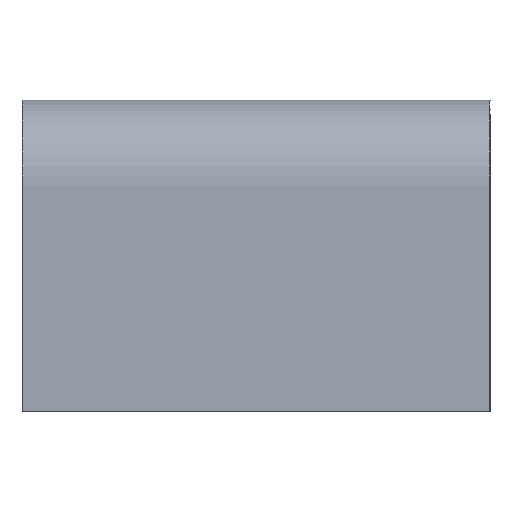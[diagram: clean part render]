
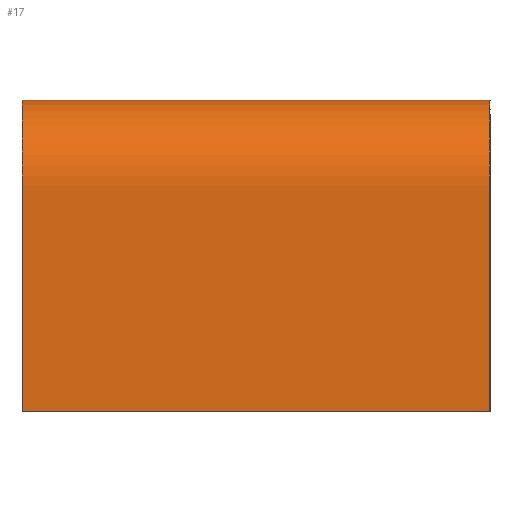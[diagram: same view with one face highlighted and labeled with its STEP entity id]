
A CAD part, left-side view. The second image highlights one B-rep face of the part: STEP entity #17.
In plain terms, the highlighted free-form (B-spline) face has degree [1, 2] with [2, 11] control points.
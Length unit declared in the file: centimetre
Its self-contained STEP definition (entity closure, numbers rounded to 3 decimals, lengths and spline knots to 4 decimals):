
#17=ADVANCED_FACE($,(#30),#154,.T.);
#30=FACE_OUTER_BOUND($,#43,.T.);
#43=EDGE_LOOP($,(#59,#60,#61,#62));
#59=ORIENTED_EDGE($,*,*,#112,.T.);
#60=ORIENTED_EDGE($,*,*,#110,.T.);
#61=ORIENTED_EDGE($,*,*,#115,.F.);
#62=ORIENTED_EDGE($,*,*,#118,.F.);
#110=EDGE_CURVE($,#136,#137,#178,.T.);
#112=EDGE_CURVE($,#138,#136,#167,.T.);
#115=EDGE_CURVE($,#141,#137,#169,.T.);
#118=EDGE_CURVE($,#138,#141,#182,.T.);
#136=VERTEX_POINT($,#412);
#137=VERTEX_POINT($,#413);
#138=VERTEX_POINT($,#414);
#141=VERTEX_POINT($,#417);
#154=(
BOUNDED_SURFACE()
B_SPLINE_SURFACE(1,2,((#365,#366,#367,#368,#369,#370,#371,#372,#373,#374,
#375),(#376,#377,#378,#379,#380,#381,#382,#383,#384,#385,#386)),.UNSPECIFIED.,
.F.,.F.,.F.)
B_SPLINE_SURFACE_WITH_KNOTS((2,2),(3,2,2,2,2,3),(0.,60.),(-383.1717,
-354.3717,-336.7788,-239.1788,-221.5858,
-192.7858),.UNSPECIFIED.)
GEOMETRIC_REPRESENTATION_ITEM()
RATIONAL_B_SPLINE_SURFACE(((1.,1.,1.,0.707,1.,1.,1.,0.707,
1.,1.,1.),(1.,1.,1.,0.707,1.,1.,1.,0.707,1.,1.,1.)))
REPRESENTATION_ITEM($)
SURFACE()
);
#167=(
BOUNDED_CURVE()
B_SPLINE_CURVE(2,(#310,#311,#312,#313,#314,#315,#316,#317,#318,#319,#320),
.UNSPECIFIED.,.F.,.F.)
B_SPLINE_CURVE_WITH_KNOTS((3,2,2,2,2,3),(192.7858,221.5858,
239.1788,336.7788,354.3717,383.1717),.UNSPECIFIED.)
CURVE()
GEOMETRIC_REPRESENTATION_ITEM()
RATIONAL_B_SPLINE_CURVE((1.,1.,1.,0.707,1.,1.,1.,0.707,
1.,1.,1.))
REPRESENTATION_ITEM($)
);
#169=(
BOUNDED_CURVE()
B_SPLINE_CURVE(2,(#334,#335,#336,#337,#338,#339,#340,#341,#342,#343,#344),
.UNSPECIFIED.,.F.,.F.)
B_SPLINE_CURVE_WITH_KNOTS((3,2,2,2,2,3),(192.7858,221.5858,
239.1788,336.7788,354.3717,383.1717),.UNSPECIFIED.)
CURVE()
GEOMETRIC_REPRESENTATION_ITEM()
RATIONAL_B_SPLINE_CURVE((1.,1.,1.,0.707,1.,1.,1.,0.707,
1.,1.,1.))
REPRESENTATION_ITEM($)
);
#178=B_SPLINE_CURVE_WITH_KNOTS($,1,(#306,#307),.UNSPECIFIED.,.F.,.F.,(2,
2),(0.,60.),.UNSPECIFIED.);
#182=B_SPLINE_CURVE_WITH_KNOTS($,1,(#358,#359),.UNSPECIFIED.,.F.,.F.,(2,
2),(0.,60.),.UNSPECIFIED.);
#306=CARTESIAN_POINT($,(120.,0.,0.));
#307=CARTESIAN_POINT($,(120.,60.,0.));
#310=CARTESIAN_POINT($,(0.,0.,0.));
#311=CARTESIAN_POINT($,(0.,0.,14.4));
#312=CARTESIAN_POINT($,(0.,0.,28.8));
#313=CARTESIAN_POINT($,(0.,0.,40.));
#314=CARTESIAN_POINT($,(11.2,0.,40.));
#315=CARTESIAN_POINT($,(60.,0.,40.));
#316=CARTESIAN_POINT($,(108.8,0.,40.));
#317=CARTESIAN_POINT($,(120.,0.,40.));
#318=CARTESIAN_POINT($,(120.,0.,28.8));
#319=CARTESIAN_POINT($,(120.,0.,14.4));
#320=CARTESIAN_POINT($,(120.,0.,0.));
#334=CARTESIAN_POINT($,(0.,60.,0.));
#335=CARTESIAN_POINT($,(0.,60.,14.4));
#336=CARTESIAN_POINT($,(0.,60.,28.8));
#337=CARTESIAN_POINT($,(0.,60.,40.));
#338=CARTESIAN_POINT($,(11.2,60.,40.));
#339=CARTESIAN_POINT($,(60.,60.,40.));
#340=CARTESIAN_POINT($,(108.8,60.,40.));
#341=CARTESIAN_POINT($,(120.,60.,40.));
#342=CARTESIAN_POINT($,(120.,60.,28.8));
#343=CARTESIAN_POINT($,(120.,60.,14.4));
#344=CARTESIAN_POINT($,(120.,60.,0.));
#358=CARTESIAN_POINT($,(0.,0.,0.));
#359=CARTESIAN_POINT($,(0.,60.,0.));
#365=CARTESIAN_POINT($,(120.,0.,0.));
#366=CARTESIAN_POINT($,(120.,0.,14.4));
#367=CARTESIAN_POINT($,(120.,0.,28.8));
#368=CARTESIAN_POINT($,(120.,0.,40.));
#369=CARTESIAN_POINT($,(108.8,0.,40.));
#370=CARTESIAN_POINT($,(60.,0.,40.));
#371=CARTESIAN_POINT($,(11.2,0.,40.));
#372=CARTESIAN_POINT($,(0.,0.,40.));
#373=CARTESIAN_POINT($,(0.,0.,28.8));
#374=CARTESIAN_POINT($,(0.,0.,14.4));
#375=CARTESIAN_POINT($,(0.,0.,0.));
#376=CARTESIAN_POINT($,(120.,60.,0.));
#377=CARTESIAN_POINT($,(120.,60.,14.4));
#378=CARTESIAN_POINT($,(120.,60.,28.8));
#379=CARTESIAN_POINT($,(120.,60.,40.));
#380=CARTESIAN_POINT($,(108.8,60.,40.));
#381=CARTESIAN_POINT($,(60.,60.,40.));
#382=CARTESIAN_POINT($,(11.2,60.,40.));
#383=CARTESIAN_POINT($,(0.,60.,40.));
#384=CARTESIAN_POINT($,(0.,60.,28.8));
#385=CARTESIAN_POINT($,(0.,60.,14.4));
#386=CARTESIAN_POINT($,(0.,60.,0.));
#412=CARTESIAN_POINT($,(120.,0.,0.));
#413=CARTESIAN_POINT($,(120.,60.,0.));
#414=CARTESIAN_POINT($,(0.,0.,0.));
#417=CARTESIAN_POINT($,(0.,60.,0.));
